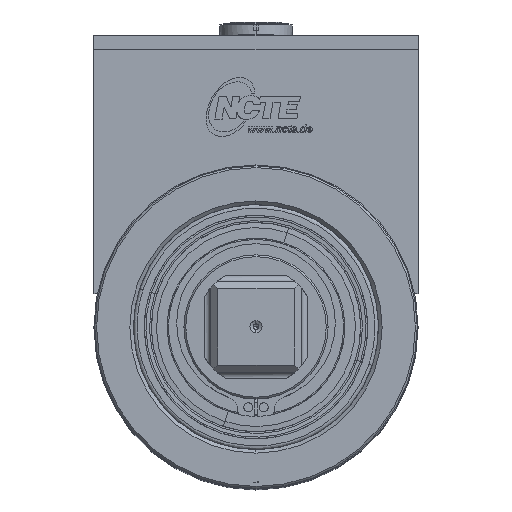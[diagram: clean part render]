
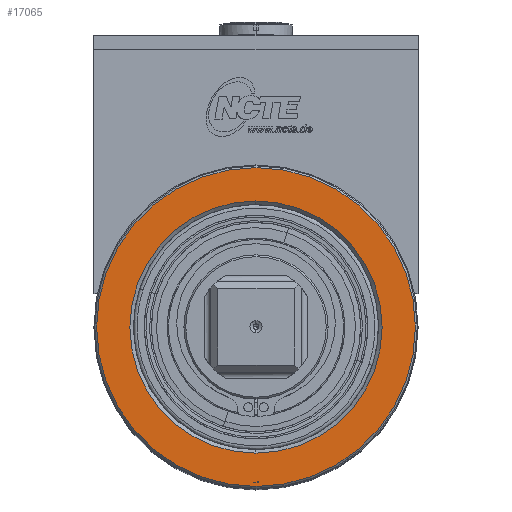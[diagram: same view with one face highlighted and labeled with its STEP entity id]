
A CAD part, top view. The second image highlights one B-rep face of the part: STEP entity #17065.
In plain terms, the highlighted planar face has unit normal (0, 0, -1).
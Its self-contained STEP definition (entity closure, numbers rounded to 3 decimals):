
#1363 = DIRECTION ( 'NONE',  ( 0., -1., 0. ) ) ;
#1390 = VERTEX_POINT ( 'NONE', #12628 ) ;
#2095 = VERTEX_POINT ( 'NONE', #33857 ) ;
#3724 = CIRCLE ( 'NONE', #27883, 35. ) ;
#3817 = CARTESIAN_POINT ( 'NONE',  ( 0., 0., 20. ) ) ;
#3913 = DIRECTION ( 'NONE',  ( 0., 0., -1. ) ) ;
#6497 = DIRECTION ( 'NONE',  ( -1., 0., 0. ) ) ;
#7471 = AXIS2_PLACEMENT_3D ( 'NONE', #3817, #22249, #6497 ) ;
#7799 = DIRECTION ( 'NONE',  ( 0., 0., -1. ) ) ;
#8072 = EDGE_LOOP ( 'NONE', ( #9971, #17533 ) ) ;
#9971 = ORIENTED_EDGE ( 'NONE', *, *, #21272, .F. ) ;
#10620 = CIRCLE ( 'NONE', #7471, 44.25 ) ;
#11384 = VERTEX_POINT ( 'NONE', #28580 ) ;
#11836 = DIRECTION ( 'NONE',  ( 1., 0., 0. ) ) ;
#12628 = CARTESIAN_POINT ( 'NONE',  ( 0., -35., 20. ) ) ;
#12677 = EDGE_CURVE ( 'NONE', #23048, #1390, #3724, .T. ) ;
#14305 = DIRECTION ( 'NONE',  ( -1., 0., 0. ) ) ;
#17065 = ADVANCED_FACE ( 'NONE', ( #33653, #26515 ), #17205, .F. ) ;
#17205 = PLANE ( 'NONE',  #20548 ) ;
#17533 = ORIENTED_EDGE ( 'NONE', *, *, #12677, .F. ) ;
#18298 = CARTESIAN_POINT ( 'NONE',  ( 0., 35., 20. ) ) ;
#19313 = ORIENTED_EDGE ( 'NONE', *, *, #26184, .F. ) ;
#19544 = DIRECTION ( 'NONE',  ( 0., 0., 1. ) ) ;
#20015 = CIRCLE ( 'NONE', #21123, 35. ) ;
#20289 = ORIENTED_EDGE ( 'NONE', *, *, #26252, .F. ) ;
#20548 = AXIS2_PLACEMENT_3D ( 'NONE', #27865, #33159, #11836 ) ;
#21123 = AXIS2_PLACEMENT_3D ( 'NONE', #29202, #7799, #21322 ) ;
#21272 = EDGE_CURVE ( 'NONE', #1390, #23048, #20015, .T. ) ;
#21322 = DIRECTION ( 'NONE',  ( 0., -1., 0. ) ) ;
#21942 = CIRCLE ( 'NONE', #30798, 44.25 ) ;
#22249 = DIRECTION ( 'NONE',  ( 0., 0., 1. ) ) ;
#22491 = CARTESIAN_POINT ( 'NONE',  ( 0., 0., 20. ) ) ;
#23048 = VERTEX_POINT ( 'NONE', #18298 ) ;
#24376 = EDGE_LOOP ( 'NONE', ( #20289, #19313 ) ) ;
#26184 = EDGE_CURVE ( 'NONE', #2095, #11384, #21942, .T. ) ;
#26252 = EDGE_CURVE ( 'NONE', #11384, #2095, #10620, .T. ) ;
#26515 = FACE_OUTER_BOUND ( 'NONE', #24376, .T. ) ;
#27750 = CARTESIAN_POINT ( 'NONE',  ( 0., 0., 20. ) ) ;
#27865 = CARTESIAN_POINT ( 'NONE',  ( 0., 0., 20. ) ) ;
#27883 = AXIS2_PLACEMENT_3D ( 'NONE', #27750, #3913, #1363 ) ;
#28580 = CARTESIAN_POINT ( 'NONE',  ( -44.25, 0., 20. ) ) ;
#29202 = CARTESIAN_POINT ( 'NONE',  ( 0., 0., 20. ) ) ;
#30798 = AXIS2_PLACEMENT_3D ( 'NONE', #22491, #19544, #14305 ) ;
#33159 = DIRECTION ( 'NONE',  ( 0., 0., 1. ) ) ;
#33653 = FACE_BOUND ( 'NONE', #8072, .T. ) ;
#33857 = CARTESIAN_POINT ( 'NONE',  ( 44.25, 0., 20. ) ) ;
